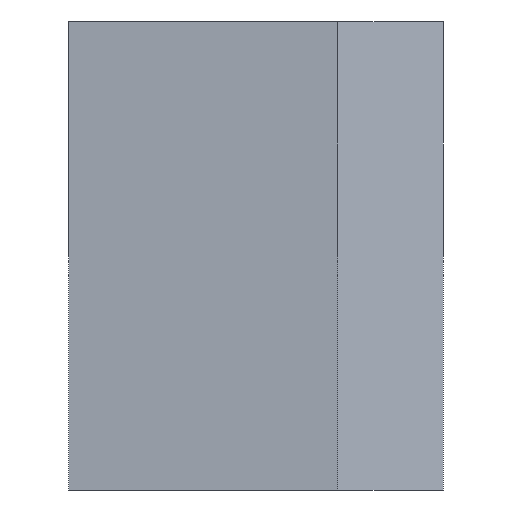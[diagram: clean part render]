
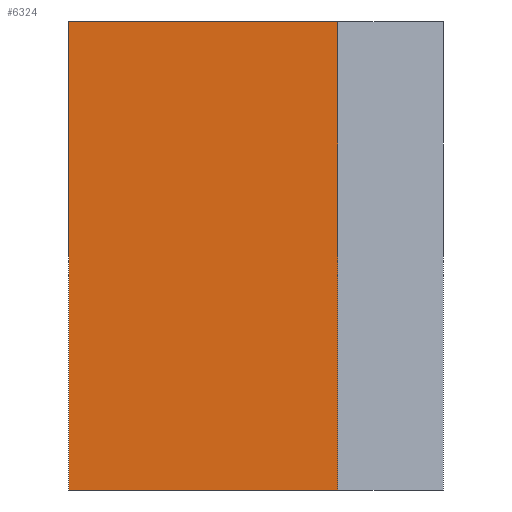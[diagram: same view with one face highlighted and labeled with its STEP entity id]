
A CAD part, front view. The second image highlights one B-rep face of the part: STEP entity #6324.
In plain terms, the highlighted planar face has unit normal (0, -1, 0).
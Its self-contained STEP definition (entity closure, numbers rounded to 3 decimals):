
#44 = PLANE('',#45);
#45 = AXIS2_PLACEMENT_3D('',#46,#47,#48);
#46 = CARTESIAN_POINT('',(-17.,-41.177,-107.54));
#47 = DIRECTION('',(-1.,0.,0.));
#48 = DIRECTION('',(0.,1.,0.));
#72 = PLANE('',#73);
#73 = AXIS2_PLACEMENT_3D('',#74,#75,#76);
#74 = CARTESIAN_POINT('',(-12.484,5.623,-97.54));
#75 = DIRECTION('',(0.,0.,-1.));
#76 = DIRECTION('',(0.,1.,0.));
#126 = PLANE('',#127);
#127 = AXIS2_PLACEMENT_3D('',#128,#129,#130);
#128 = CARTESIAN_POINT('',(-12.484,5.623,-107.54));
#129 = DIRECTION('',(0.,0.,-1.));
#130 = DIRECTION('',(0.,1.,0.));
#141 = EDGE_CURVE('',#142,#144,#146,.T.);
#142 = VERTEX_POINT('',#143);
#143 = CARTESIAN_POINT('',(-17.,-41.177,-107.54));
#144 = VERTEX_POINT('',#145);
#145 = CARTESIAN_POINT('',(-17.,-41.177,-97.54));
#146 = SURFACE_CURVE('',#147,(#151,#158),.PCURVE_S1.);
#147 = LINE('',#148,#149);
#148 = CARTESIAN_POINT('',(-17.,-41.177,-107.54));
#149 = VECTOR('',#150,1.);
#150 = DIRECTION('',(0.,0.,1.));
#151 = PCURVE('',#44,#152);
#152 = DEFINITIONAL_REPRESENTATION('',(#153),#157);
#153 = LINE('',#154,#155);
#154 = CARTESIAN_POINT('',(0.,0.));
#155 = VECTOR('',#156,1.);
#156 = DIRECTION('',(0.,-1.));
#157 = ( GEOMETRIC_REPRESENTATION_CONTEXT(2) 
PARAMETRIC_REPRESENTATION_CONTEXT() REPRESENTATION_CONTEXT('2D SPACE',''
  ) );
#158 = PCURVE('',#159,#164);
#159 = PLANE('',#160);
#160 = AXIS2_PLACEMENT_3D('',#161,#162,#163);
#161 = CARTESIAN_POINT('',(-11.25,-41.177,-107.54));
#162 = DIRECTION('',(0.,-1.,0.));
#163 = DIRECTION('',(-1.,0.,0.));
#164 = DEFINITIONAL_REPRESENTATION('',(#165),#169);
#165 = LINE('',#166,#167);
#166 = CARTESIAN_POINT('',(5.75,0.));
#167 = VECTOR('',#168,1.);
#168 = DIRECTION('',(0.,-1.));
#169 = ( GEOMETRIC_REPRESENTATION_CONTEXT(2) 
PARAMETRIC_REPRESENTATION_CONTEXT() REPRESENTATION_CONTEXT('2D SPACE',''
  ) );
#3581 = VERTEX_POINT('',#3582);
#3582 = CARTESIAN_POINT('',(-11.25,-41.177,-107.54));
#3596 = PLANE('',#3597);
#3597 = AXIS2_PLACEMENT_3D('',#3598,#3599,#3600);
#3598 = CARTESIAN_POINT('',(-11.25,-38.953,-107.54));
#3599 = DIRECTION('',(1.,0.,0.));
#3600 = DIRECTION('',(0.,-1.,0.));
#3608 = EDGE_CURVE('',#3581,#142,#3609,.T.);
#3609 = SURFACE_CURVE('',#3610,(#3614,#3621),.PCURVE_S1.);
#3610 = LINE('',#3611,#3612);
#3611 = CARTESIAN_POINT('',(-11.25,-41.177,-107.54));
#3612 = VECTOR('',#3613,1.);
#3613 = DIRECTION('',(-1.,0.,0.));
#3614 = PCURVE('',#126,#3615);
#3615 = DEFINITIONAL_REPRESENTATION('',(#3616),#3620);
#3616 = LINE('',#3617,#3618);
#3617 = CARTESIAN_POINT('',(-46.8,1.234));
#3618 = VECTOR('',#3619,1.);
#3619 = DIRECTION('',(0.,-1.));
#3620 = ( GEOMETRIC_REPRESENTATION_CONTEXT(2) 
PARAMETRIC_REPRESENTATION_CONTEXT() REPRESENTATION_CONTEXT('2D SPACE',''
  ) );
#3621 = PCURVE('',#159,#3622);
#3622 = DEFINITIONAL_REPRESENTATION('',(#3623),#3627);
#3623 = LINE('',#3624,#3625);
#3624 = CARTESIAN_POINT('',(0.,0.));
#3625 = VECTOR('',#3626,1.);
#3626 = DIRECTION('',(1.,0.));
#3627 = ( GEOMETRIC_REPRESENTATION_CONTEXT(2) 
PARAMETRIC_REPRESENTATION_CONTEXT() REPRESENTATION_CONTEXT('2D SPACE',''
  ) );
#6281 = VERTEX_POINT('',#6282);
#6282 = CARTESIAN_POINT('',(-11.25,-41.177,-97.54));
#6303 = EDGE_CURVE('',#6281,#144,#6304,.T.);
#6304 = SURFACE_CURVE('',#6305,(#6309,#6316),.PCURVE_S1.);
#6305 = LINE('',#6306,#6307);
#6306 = CARTESIAN_POINT('',(-11.25,-41.177,-97.54));
#6307 = VECTOR('',#6308,1.);
#6308 = DIRECTION('',(-1.,0.,0.));
#6309 = PCURVE('',#72,#6310);
#6310 = DEFINITIONAL_REPRESENTATION('',(#6311),#6315);
#6311 = LINE('',#6312,#6313);
#6312 = CARTESIAN_POINT('',(-46.8,1.234));
#6313 = VECTOR('',#6314,1.);
#6314 = DIRECTION('',(0.,-1.));
#6315 = ( GEOMETRIC_REPRESENTATION_CONTEXT(2) 
PARAMETRIC_REPRESENTATION_CONTEXT() REPRESENTATION_CONTEXT('2D SPACE',''
  ) );
#6316 = PCURVE('',#159,#6317);
#6317 = DEFINITIONAL_REPRESENTATION('',(#6318),#6322);
#6318 = LINE('',#6319,#6320);
#6319 = CARTESIAN_POINT('',(0.,-10.));
#6320 = VECTOR('',#6321,1.);
#6321 = DIRECTION('',(1.,0.));
#6322 = ( GEOMETRIC_REPRESENTATION_CONTEXT(2) 
PARAMETRIC_REPRESENTATION_CONTEXT() REPRESENTATION_CONTEXT('2D SPACE',''
  ) );
#6324 = ADVANCED_FACE('',(#6325),#159,.T.);
#6325 = FACE_BOUND('',#6326,.T.);
#6326 = EDGE_LOOP('',(#6327,#6348,#6349,#6350));
#6327 = ORIENTED_EDGE('',*,*,#6328,.T.);
#6328 = EDGE_CURVE('',#3581,#6281,#6329,.T.);
#6329 = SURFACE_CURVE('',#6330,(#6334,#6341),.PCURVE_S1.);
#6330 = LINE('',#6331,#6332);
#6331 = CARTESIAN_POINT('',(-11.25,-41.177,-107.54));
#6332 = VECTOR('',#6333,1.);
#6333 = DIRECTION('',(0.,0.,1.));
#6334 = PCURVE('',#159,#6335);
#6335 = DEFINITIONAL_REPRESENTATION('',(#6336),#6340);
#6336 = LINE('',#6337,#6338);
#6337 = CARTESIAN_POINT('',(0.,0.));
#6338 = VECTOR('',#6339,1.);
#6339 = DIRECTION('',(0.,-1.));
#6340 = ( GEOMETRIC_REPRESENTATION_CONTEXT(2) 
PARAMETRIC_REPRESENTATION_CONTEXT() REPRESENTATION_CONTEXT('2D SPACE',''
  ) );
#6341 = PCURVE('',#3596,#6342);
#6342 = DEFINITIONAL_REPRESENTATION('',(#6343),#6347);
#6343 = LINE('',#6344,#6345);
#6344 = CARTESIAN_POINT('',(2.224,0.));
#6345 = VECTOR('',#6346,1.);
#6346 = DIRECTION('',(0.,-1.));
#6347 = ( GEOMETRIC_REPRESENTATION_CONTEXT(2) 
PARAMETRIC_REPRESENTATION_CONTEXT() REPRESENTATION_CONTEXT('2D SPACE',''
  ) );
#6348 = ORIENTED_EDGE('',*,*,#6303,.T.);
#6349 = ORIENTED_EDGE('',*,*,#141,.F.);
#6350 = ORIENTED_EDGE('',*,*,#3608,.F.);
